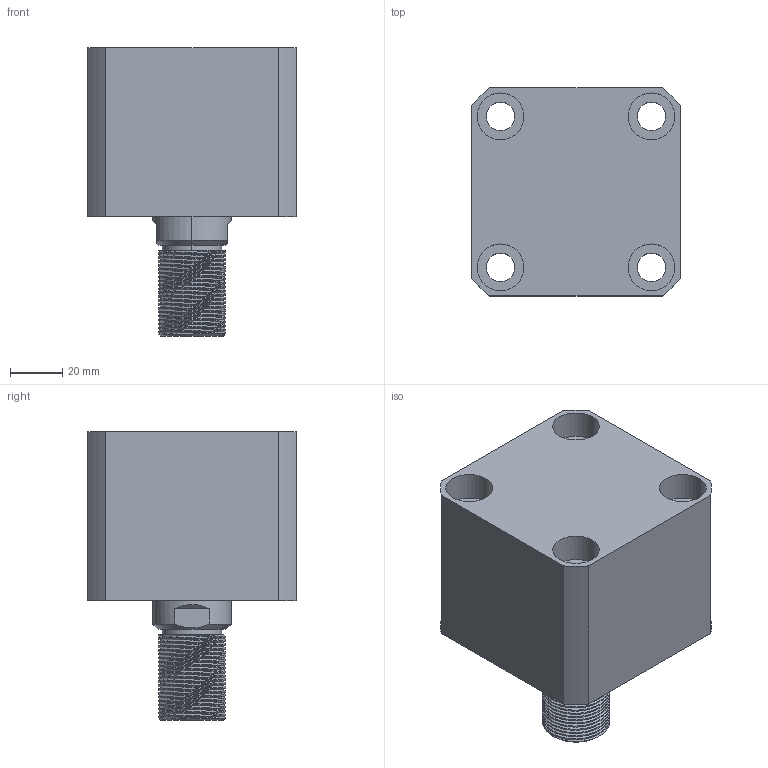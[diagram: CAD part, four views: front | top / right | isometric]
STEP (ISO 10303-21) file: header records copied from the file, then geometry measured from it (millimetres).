
FILE_DESCRIPTION (( 'STEP AP203' ), '1' );
FILE_NAME ('CHTB-SDMA50-5W.STEP', '2018-05-19T01:14:59', ( '' ), ( '' ), 'SwSTEP 2.0', 'SolidWorks 2015', '' );
FILE_SCHEMA (( 'CONFIG_CONTROL_DESIGN' ));
Length unit declared in the file: millimetre
Products named in the file (5): CHTB-SDMA50-5W; 活塞杆SDMA50-5W; 掛极SDMA50-5W; CHTM-SDMA50QG; M6
Assembly tree (5 placements, depth 2):
  CHTB-SDMA50-5W
    掛极SDMA50-5W
    CHTM-SDMA50QG
    活塞杆SDMA50-5W
    M6  x2
Bounding box: 80 x 80 x 111 mm (x, y, z)
Volume: 384612.2 mm3; surface area: 86160.9 mm2
Topology: 5 solids, 5 shells, 313 faces, 832 edges, 553 vertices
Faces by surface type: cylinder 179, plane 61, cone 29, bspline 28, torus 16
Entity records: 17877 total; most frequent: CARTESIAN_POINT 10975, ORIENTED_EDGE 1470, DIRECTION 1175, EDGE_CURVE 735, VERTEX_POINT 492, AXIS2_PLACEMENT_3D 473, EDGE_LOOP 321, ADVANCED_FACE 278
